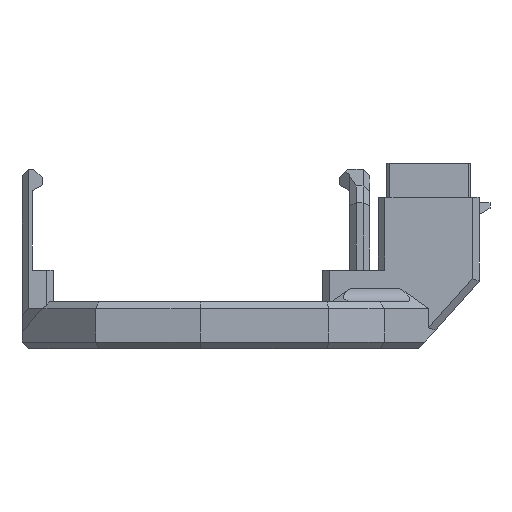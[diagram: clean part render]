
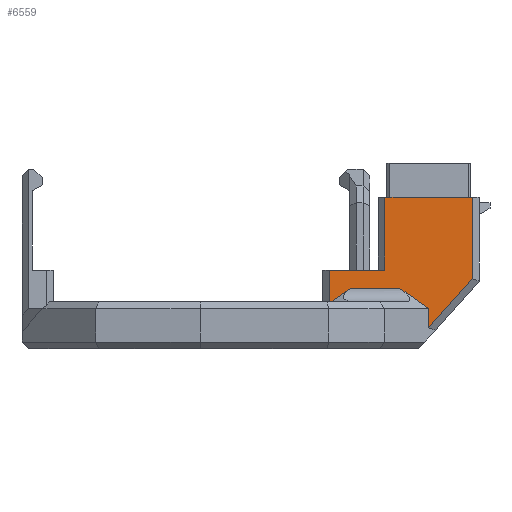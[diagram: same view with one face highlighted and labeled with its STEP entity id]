
A CAD part, front view. The second image highlights one B-rep face of the part: STEP entity #6559.
In plain terms, the highlighted planar face has unit normal (0, -1, 0).
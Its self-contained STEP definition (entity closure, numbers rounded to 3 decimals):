
#115 = EDGE_CURVE ( 'NONE', #2163, #8281, #6496, .T. ) ;
#398 = LINE ( 'NONE', #7663, #7292 ) ;
#435 = VECTOR ( 'NONE', #1394, 1000. ) ;
#497 = CARTESIAN_POINT ( 'NONE',  ( 26.381, -18., 11.185 ) ) ;
#644 = FACE_OUTER_BOUND ( 'NONE', #10911, .T. ) ;
#660 = CARTESIAN_POINT ( 'NONE',  ( 39.505, -18., 9.614 ) ) ;
#775 = CARTESIAN_POINT ( 'NONE',  ( 19.268, -18., 7. ) ) ;
#816 = CARTESIAN_POINT ( 'NONE',  ( 19.268, -18., 7. ) ) ;
#845 = ORIENTED_EDGE ( 'NONE', *, *, #115, .F. ) ;
#943 = CARTESIAN_POINT ( 'NONE',  ( 27.25, -18., 22.5 ) ) ;
#1165 = EDGE_CURVE ( 'NONE', #4715, #2562, #398, .T. ) ;
#1170 = ORIENTED_EDGE ( 'NONE', *, *, #3768, .T. ) ;
#1204 = DIRECTION ( 'NONE',  ( -1., 0., 0. ) ) ;
#1250 = EDGE_CURVE ( 'NONE', #4715, #6640, #3775, .T. ) ;
#1253 = ORIENTED_EDGE ( 'NONE', *, *, #3045, .T. ) ;
#1332 = DIRECTION ( 'NONE',  ( 0., 0., -1. ) ) ;
#1386 = VECTOR ( 'NONE', #5574, 1000. ) ;
#1394 = DIRECTION ( 'NONE',  ( 0.816, 0., -0.577 ) ) ;
#1464 = VERTEX_POINT ( 'NONE', #7863 ) ;
#1624 = DIRECTION ( 'NONE',  ( 0., 0., -1. ) ) ;
#1732 = CARTESIAN_POINT ( 'NONE',  ( 27.25, -18., 11.7 ) ) ;
#1976 = LINE ( 'NONE', #4515, #9150 ) ;
#2163 = VERTEX_POINT ( 'NONE', #3909 ) ;
#2223 = CARTESIAN_POINT ( 'NONE',  ( 19., -18., 2.5 ) ) ;
#2253 = AXIS2_PLACEMENT_3D ( 'NONE', #6099, #6995, #1624 ) ;
#2257 = DIRECTION ( 'NONE',  ( 1., 0., 0. ) ) ;
#2326 = LINE ( 'NONE', #4781, #4438 ) ;
#2439 = DIRECTION ( 'NONE',  ( 0.667, 0., 0.745 ) ) ;
#2451 = CARTESIAN_POINT ( 'NONE',  ( 19., -18., 6.891 ) ) ;
#2562 = VERTEX_POINT ( 'NONE', #7547 ) ;
#2592 = VECTOR ( 'NONE', #1332, 1000. ) ;
#2636 = VECTOR ( 'NONE', #2439, 1000. ) ;
#2730 = DIRECTION ( 'NONE',  ( 0.816, 0., 0.577 ) ) ;
#2820 = ORIENTED_EDGE ( 'NONE', *, *, #9360, .T. ) ;
#2918 = LINE ( 'NONE', #660, #2636 ) ;
#3045 = EDGE_CURVE ( 'NONE', #1464, #2562, #7887, .T. ) ;
#3642 = VERTEX_POINT ( 'NONE', #775 ) ;
#3768 = EDGE_CURVE ( 'NONE', #3642, #5320, #7147, .T. ) ;
#3775 = LINE ( 'NONE', #9130, #1386 ) ;
#3909 = CARTESIAN_POINT ( 'NONE',  ( 33.714, -18., 3.153 ) ) ;
#4174 = VERTEX_POINT ( 'NONE', #2451 ) ;
#4319 = LINE ( 'NONE', #4407, #8523 ) ;
#4322 = CARTESIAN_POINT ( 'NONE',  ( 19., -18., 11.7 ) ) ;
#4405 = ORIENTED_EDGE ( 'NONE', *, *, #1165, .F. ) ;
#4407 = CARTESIAN_POINT ( 'NONE',  ( -174946.735, -18., -71422.571 ) ) ;
#4412 = EDGE_CURVE ( 'NONE', #11697, #8281, #10007, .T. ) ;
#4419 = ORIENTED_EDGE ( 'NONE', *, *, #5529, .T. ) ;
#4438 = VECTOR ( 'NONE', #1204, 1000. ) ;
#4515 = CARTESIAN_POINT ( 'NONE',  ( 32.3, -18., 9. ) ) ;
#4715 = VERTEX_POINT ( 'NONE', #943 ) ;
#4781 = CARTESIAN_POINT ( 'NONE',  ( 18., -18., 11.7 ) ) ;
#4882 = CARTESIAN_POINT ( 'NONE',  ( 22.097, -18., 9. ) ) ;
#5211 = CARTESIAN_POINT ( 'NONE',  ( 13.829, -18., 7. ) ) ;
#5241 = ORIENTED_EDGE ( 'NONE', *, *, #10128, .T. ) ;
#5298 = CARTESIAN_POINT ( 'NONE',  ( 33.714, -18., 2.5 ) ) ;
#5307 = ORIENTED_EDGE ( 'NONE', *, *, #8133, .T. ) ;
#5320 = VERTEX_POINT ( 'NONE', #4882 ) ;
#5377 = CARTESIAN_POINT ( 'NONE',  ( 29.472, -18., 9. ) ) ;
#5432 = DIRECTION ( 'NONE',  ( 1., 0., 0. ) ) ;
#5476 = VECTOR ( 'NONE', #7468, 1000. ) ;
#5483 = ORIENTED_EDGE ( 'NONE', *, *, #9842, .T. ) ;
#5529 = EDGE_CURVE ( 'NONE', #2163, #1464, #2918, .T. ) ;
#5574 = DIRECTION ( 'NONE',  ( 0., 0., -1. ) ) ;
#6061 = ORIENTED_EDGE ( 'NONE', *, *, #6256, .F. ) ;
#6099 = CARTESIAN_POINT ( 'NONE',  ( 26.25, -18., 2.5 ) ) ;
#6125 = DIRECTION ( 'NONE',  ( 1., 0., 0. ) ) ;
#6256 = EDGE_CURVE ( 'NONE', #7751, #4174, #4319, .T. ) ;
#6496 = LINE ( 'NONE', #5298, #8895 ) ;
#6559 = ADVANCED_FACE ( 'NONE', ( #644 ), #7881, .T. ) ;
#6640 = VERTEX_POINT ( 'NONE', #1732 ) ;
#6995 = DIRECTION ( 'NONE',  ( 0., -1., 0. ) ) ;
#7147 = LINE ( 'NONE', #9006, #8966 ) ;
#7292 = VECTOR ( 'NONE', #2257, 1000. ) ;
#7468 = DIRECTION ( 'NONE',  ( 0., 0., 1. ) ) ;
#7547 = CARTESIAN_POINT ( 'NONE',  ( 40.25, -18., 22.5 ) ) ;
#7663 = CARTESIAN_POINT ( 'NONE',  ( 26.25, -18., 22.5 ) ) ;
#7708 = VERTEX_POINT ( 'NONE', #4322 ) ;
#7751 = VERTEX_POINT ( 'NONE', #816 ) ;
#7791 = ORIENTED_EDGE ( 'NONE', *, *, #4412, .T. ) ;
#7863 = CARTESIAN_POINT ( 'NONE',  ( 40.25, -18., 10.445 ) ) ;
#7881 = PLANE ( 'NONE',  #2253 ) ;
#7887 = LINE ( 'NONE', #10153, #5476 ) ;
#8133 = EDGE_CURVE ( 'NONE', #7708, #4174, #9771, .T. ) ;
#8281 = VERTEX_POINT ( 'NONE', #10579 ) ;
#8523 = VECTOR ( 'NONE', #9829, 1000. ) ;
#8895 = VECTOR ( 'NONE', #11611, 1000. ) ;
#8966 = VECTOR ( 'NONE', #2730, 1000. ) ;
#9006 = CARTESIAN_POINT ( 'NONE',  ( 22.097, -18., 9. ) ) ;
#9130 = CARTESIAN_POINT ( 'NONE',  ( 27.25, -18., 2.5 ) ) ;
#9150 = VECTOR ( 'NONE', #5432, 1000. ) ;
#9360 = EDGE_CURVE ( 'NONE', #5320, #11697, #1976, .T. ) ;
#9771 = LINE ( 'NONE', #2223, #2592 ) ;
#9829 = DIRECTION ( 'NONE',  ( -0.926, 0., -0.378 ) ) ;
#9842 = EDGE_CURVE ( 'NONE', #6640, #7708, #2326, .T. ) ;
#10007 = LINE ( 'NONE', #497, #435 ) ;
#10128 = EDGE_CURVE ( 'NONE', #7751, #3642, #10647, .T. ) ;
#10153 = CARTESIAN_POINT ( 'NONE',  ( 40.25, -18., 2.5 ) ) ;
#10351 = ORIENTED_EDGE ( 'NONE', *, *, #1250, .T. ) ;
#10356 = VECTOR ( 'NONE', #6125, 1000. ) ;
#10579 = CARTESIAN_POINT ( 'NONE',  ( 33.714, -18., 6. ) ) ;
#10647 = LINE ( 'NONE', #5211, #10356 ) ;
#10911 = EDGE_LOOP ( 'NONE', ( #7791, #845, #4419, #1253, #4405, #10351, #5483, #5307, #6061, #5241, #1170, #2820 ) ) ;
#11611 = DIRECTION ( 'NONE',  ( 0., 0., 1. ) ) ;
#11697 = VERTEX_POINT ( 'NONE', #5377 ) ;
